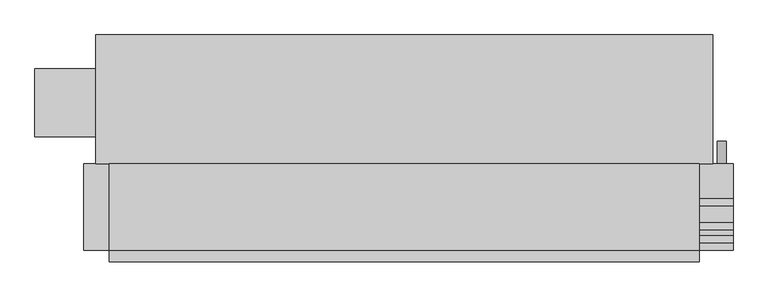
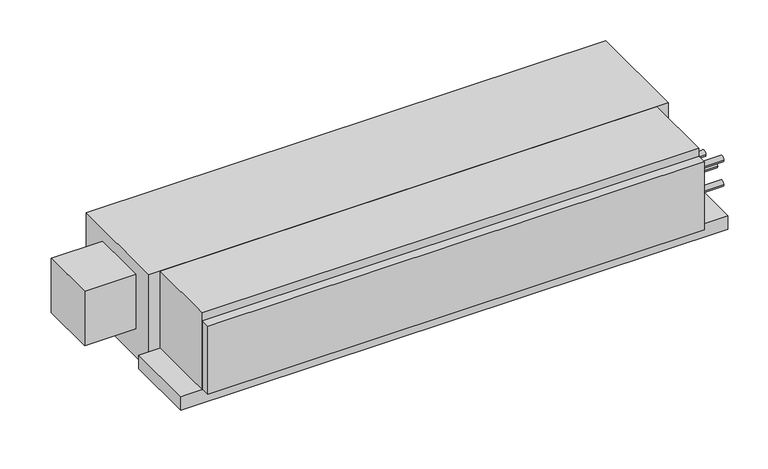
"""IFC4 building model written with IfcOpenShell, lengths in millimetres: proxy geometry, Concealed_Horizontal_Fan_Coil_Unit_With_Plenum_-_42CEA_-_CARRIER_-_4-Pipe_RH_2022 : Size 10 - 277v/60Hz/1Ph - 4/1 Coil."""

from ifc_helpers import new_model, si_unit, point, frame, frame_2d, origin, place, context, project, spatial, polyline, circle_curve, trimmed, segment, composite_curve, outline, extrude, source, transform, mapped, element, save


def mechanical_equipment_46e83e5c(model_context):
    return source(origin(), model_context, "Body", "SweptSolid", [
        extrude(outline(composite_curve([segment(trimmed(circle_curve(frame_2d((-241.3, 863.6)), 9.525), [point((-241.3, 854.075))], [point((-241.3, 873.125))], False, "CARTESIAN"), True, "CONTINUOUS"), segment(trimmed(circle_curve(frame_2d((-241.3, 863.6)), 9.525), [point((-241.3, 873.125))], [point((-241.3, 854.075))], False, "CARTESIAN"), True, "CONTINUOUS")], self_intersect=False)), frame((0.0, -141.2875, 0.0), z_axis=(0.0, 1.0, 0.0), x_axis=(0.0, 0.0, 1.0)), (0.0, 0.0, 1.0), 50.8),
        extrude(outline(composite_curve([segment(trimmed(circle_curve(frame_2d((-309.5625, -69.85)), 7.9375), [point((-317.5, -69.85))], [point((-301.625, -69.85))], False, "CARTESIAN"), True, "CONTINUOUS"), segment(trimmed(circle_curve(frame_2d((-309.5625, -69.85)), 7.9375), [point((-301.625, -69.85))], [point((-317.5, -69.85))], False, "CARTESIAN"), True, "CONTINUOUS")], self_intersect=False)), frame((812.8, 0.0, 0.0), z_axis=(1.0, 0.0, 0.0), x_axis=(0.0, 1.0, 0.0)), (0.0, 0.0, 1.0), 76.2),
        extrude(outline(composite_curve([segment(trimmed(circle_curve(frame_2d((-309.5625, -139.7)), 7.9375), [point((-317.5, -139.7))], [point((-301.625, -139.7))], False, "CARTESIAN"), True, "CONTINUOUS"), segment(trimmed(circle_curve(frame_2d((-309.5625, -139.7)), 7.9375), [point((-301.625, -139.7))], [point((-317.5, -139.7))], False, "CARTESIAN"), True, "CONTINUOUS")], self_intersect=False)), frame((812.8, 0.0, 0.0), z_axis=(1.0, 0.0, 0.0), x_axis=(0.0, 1.0, 0.0)), (0.0, 0.0, 1.0), 76.2),
        extrude(outline(composite_curve([segment(trimmed(circle_curve(frame_2d((-227.0125, -104.775)), 7.9375), [point((-234.95, -104.775))], [point((-219.075, -104.775))], False, "CARTESIAN"), True, "CONTINUOUS"), segment(trimmed(circle_curve(frame_2d((-227.0125, -104.775)), 7.9375), [point((-219.075, -104.775))], [point((-234.95, -104.775))], False, "CARTESIAN"), True, "CONTINUOUS")], self_intersect=False)), frame((812.8, 0.0, 0.0), z_axis=(1.0, 0.0, 0.0), x_axis=(0.0, 1.0, 0.0)), (0.0, 0.0, 1.0), 76.2),
        extrude(outline(composite_curve([segment(trimmed(circle_curve(frame_2d((-280.9875, -104.775)), 7.9375), [point((-288.925, -104.775))], [point((-273.05, -104.775))], False, "CARTESIAN"), True, "CONTINUOUS"), segment(trimmed(circle_curve(frame_2d((-280.9875, -104.775)), 7.9375), [point((-273.05, -104.775))], [point((-288.925, -104.775))], False, "CARTESIAN"), True, "CONTINUOUS")], self_intersect=False)), frame((812.8, 0.0, 0.0), z_axis=(1.0, 0.0, 0.0), x_axis=(0.0, 1.0, 0.0)), (0.0, 0.0, 1.0), 76.2),
        extrude(outline(polyline([(812.8, -334.9625), (812.8, -360.3625), (-508.0, -360.3625), (-508.0, -334.9625), (812.8, -334.9625)])), frame((0.0, 0.0, -212.725), z_axis=(0.0, 0.0, 1.0), x_axis=(1.0, 0.0, 0.0)), (0.0, 0.0, 1.0), 190.5),
        extrude(outline(polyline([(812.8, -334.9625), (-508.0, -334.9625), (-508.0, -141.2875), (812.8, -141.2875), (812.8, -334.9625)])), frame((0.0, 0.0, -215.9), z_axis=(0.0, 0.0, 1.0), x_axis=(1.0, 0.0, 0.0)), (0.0, 0.0, 1.0), 215.9),
        extrude(outline(polyline([(889.0, -141.2875), (889.0, -334.9625), (-565.15, -334.9625), (-565.15, -141.2875), (889.0, -141.2875)])), frame((0.0, 0.0, -254.0), z_axis=(0.0, 0.0, 1.0), x_axis=(1.0, 0.0, 0.0)), (0.0, 0.0, 1.0), 38.1),
        extrude(outline(polyline([(-674.6875, -80.9625), (-674.6875, 71.4375), (-538.1625, 71.4375), (-538.1625, -80.9625), (-674.6875, -80.9625)])), frame((0.0, 0.0, -187.325), z_axis=(0.0, 0.0, 1.0), x_axis=(1.0, 0.0, 0.0)), (0.0, 0.0, 1.0), 152.4),
        extrude(outline(polyline([(-538.1625, 147.6375), (842.9625, 147.6375), (842.9625, -141.2875), (-538.1625, -141.2875), (-538.1625, 147.6375)])), frame((0.0, 0.0, -266.7), z_axis=(0.0, 0.0, 1.0), x_axis=(1.0, 0.0, 0.0)), (0.0, 0.0, 1.0), 266.7),
    ])


if __name__ == "__main__":
    model = new_model("IFC4")
    model_context = context("Model", 3, world=origin())
    ifc_project = project(units=[si_unit("LENGTHUNIT", "METRE", prefix="MILLI")], contexts=[model_context])
    site = spatial("IfcSite", under=ifc_project)
    building = spatial("IfcBuilding", under=site)
    placement = place(None, origin())
    mechanical_equipment_shape = mechanical_equipment_46e83e5c(model_context)
    element("IfcBuildingElementProxy", 1, Name="Concealed_Horizontal_Fan_Coil_Unit_With_Plenum_-_42CEA_-_CARRIER_-_4-Pipe_RH_2022 : Size 10 - 277v/60Hz/1Ph - 4/1 Coil", ObjectType="Concealed_Horizontal_Fan_Coil_Unit_With_Plenum_-_42CEA_-_CARRIER_-_4-Pipe_RH_2022 : Size 10 - 277v/60Hz/1Ph - 4/1 Coil", at=placement, inside=building, context=model_context, shape_type="MappedRepresentation", body=[
        mapped(mechanical_equipment_shape, transform((0.0, 0.0, 0.0), x_axis=(1.0, 0.0, 0.0), y_axis=(0.0, 1.0, 0.0), z_axis=(0.0, 0.0, 1.0))),
    ])
    save(model, "model.ifc")
